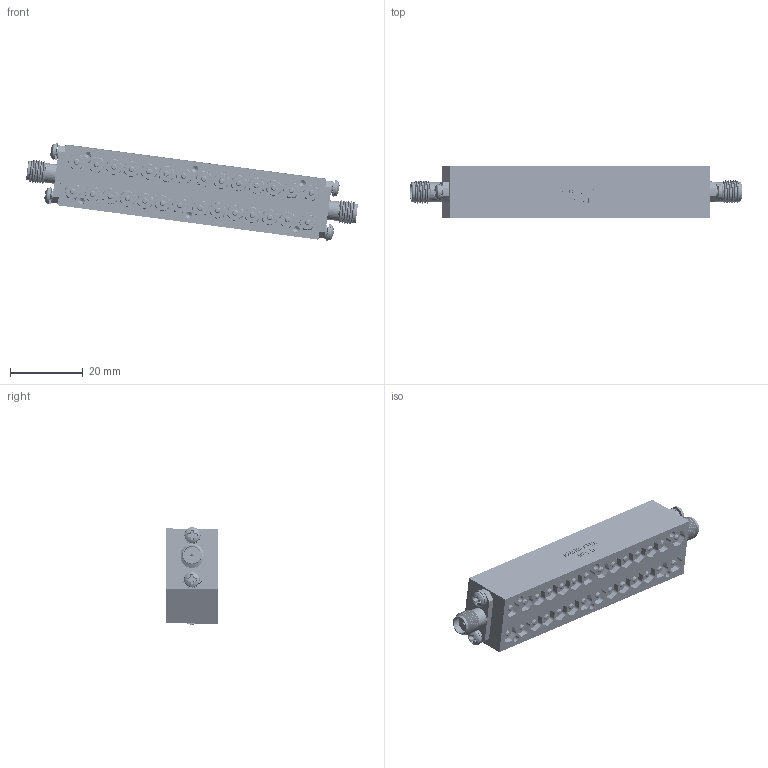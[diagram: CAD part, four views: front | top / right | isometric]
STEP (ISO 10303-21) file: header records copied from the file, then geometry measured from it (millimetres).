
FILE_DESCRIPTION (( 'STEP AP214' ), '1' );
FILE_NAME ('NW-FL-09BPCV-20775-SFSF-M01.STEP', '2025-04-01T12:25:48', ( '' ), ( '' ), 'SwSTEP 2.0', 'SolidWorks 2021', '' );
FILE_SCHEMA (( 'AUTOMOTIVE_DESIGN' ));
Length unit declared in the file: inch
Products named in the file (15): 91772A079 (72460) - SCREW, PPHMS, SS, #2-56 X .375L_91772A079; FS-SCREW STACK UP 2-56 x .375 long (PAN HEAD); Assem2^A6070-1910; 214-500SF; 91841A115 (70701) - NUT, HEX, SS, #0-80_91841A115; 1025-098-079-010-L; 290-06G; NW-FL-09BPCV-20775-SFSF-M01; A6070-1911; 5710-120-16 - WASHER, FLAT, SS, #0, .13 OD X .02 THK_92141A001; 90145A414 (2MA85) - DOWEL PIN, SS, .062D X .188L_90145A414; 92146A520 (71051) - WASHER, SPLIT-LOCK, SS, #2, .18 OD X .02 THK_92146A520; 90945A705 (9900326) - WASHER, FLAT, SS, #2, .15 OD X .01 THK_90945A705; A6070-1912; 92196A048 (XXXX) - SCREW, SHCS, SS, #0-80 X .437L_92196A048
Assembly tree (48 placements, depth 3):
  NW-FL-09BPCV-20775-SFSF-M01
    A6070-1911
    A6070-1912
    Assem2^A6070-1910  x28
      91841A115 (70701) - NUT, HEX, SS, #0-80_91841A115
      92196A048 (XXXX) - SCREW, SHCS, SS, #0-80 X .437L_92196A048
      5710-120-16 - WASHER, FLAT, SS, #0, .13 OD X .02 THK_92141A001
    FS-SCREW STACK UP 2-56 x .375 long (PAN HEAD)  x4
      91772A079 (72460) - SCREW, PPHMS, SS, #2-56 X .375L_91772A079
      92146A520 (71051) - WASHER, SPLIT-LOCK, SS, #2, .18 OD X .02 THK_92146A520
      90945A705 (9900326) - WASHER, FLAT, SS, #2, .15 OD X .01 THK_90945A705
    90145A414 (2MA85) - DOWEL PIN, SS, .062D X .188L_90145A414  x2
    290-06G  x2
    214-500SF  x2
    1025-098-079-010-L  x2
Bounding box: 91.06 x 14.39 x 26.76 mm (x, y, z)
Volume: 14622.4 mm3; surface area: 18148.9 mm2
Topology: 116 solids, 116 shells, 6286 faces, 16050 edges, 10136 vertices
Faces by surface type: cylinder 3580, cone 1220, plane 1111, bspline 343, torus 16, sphere 16
Entity records: 65979 total; most frequent: CARTESIAN_POINT 28861, ORIENTED_EDGE 7992, DIRECTION 6688, EDGE_CURVE 3996, VERTEX_POINT 2636, AXIS2_PLACEMENT_3D 2362, VECTOR 1964, LINE 1964
